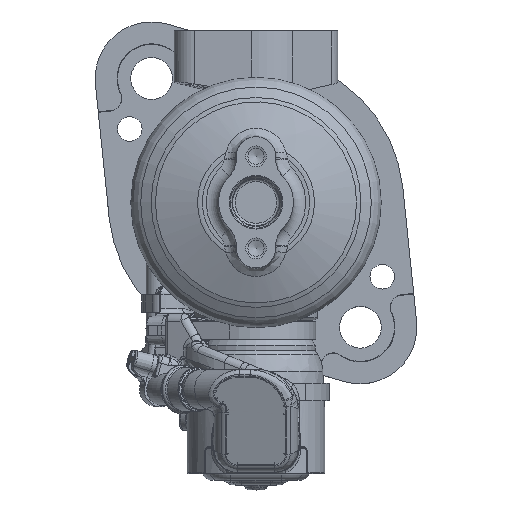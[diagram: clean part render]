
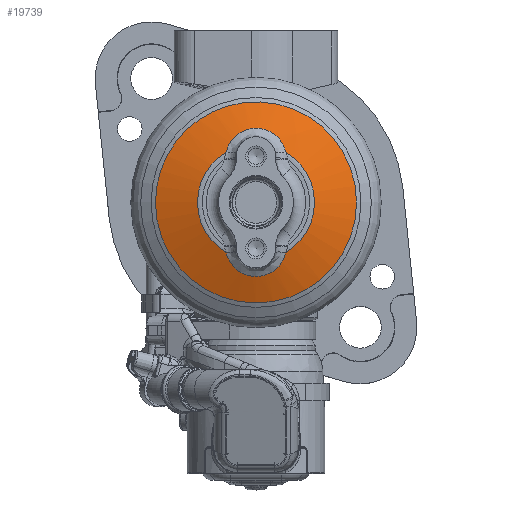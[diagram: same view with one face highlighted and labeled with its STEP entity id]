
A CAD part, top view. The second image highlights one B-rep face of the part: STEP entity #19739.
In plain terms, the highlighted spherical face has radius 48.7 mm.
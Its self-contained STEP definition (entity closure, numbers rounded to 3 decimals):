
#7176=SPHERICAL_SURFACE('',#77959,48.7);
#13625=CIRCLE('',#77949,20.439);
#13626=CIRCLE('',#77951,11.895);
#13628=CIRCLE('',#77954,11.895);
#19739=ADVANCED_FACE('',(#22661,#22662),#7176,.T.);
#22661=FACE_BOUND('',#26833,.T.);
#22662=FACE_BOUND('',#26834,.T.);
#26833=EDGE_LOOP('',(#45794,#45795,#45796,#45797));
#26834=EDGE_LOOP('',(#45798));
#45794=ORIENTED_EDGE('',*,*,#65544,.T.);
#45795=ORIENTED_EDGE('',*,*,#65514,.T.);
#45796=ORIENTED_EDGE('',*,*,#65546,.T.);
#45797=ORIENTED_EDGE('',*,*,#65482,.T.);
#45798=ORIENTED_EDGE('',*,*,#65543,.F.);
#55237=VERTEX_POINT('',#163507);
#55243=VERTEX_POINT('',#163552);
#55262=VERTEX_POINT('',#163744);
#55266=VERTEX_POINT('',#163798);
#55285=VERTEX_POINT('',#163986);
#65482=EDGE_CURVE('',#55243,#55237,#71920,.T.);
#65514=EDGE_CURVE('',#55262,#55266,#71934,.T.);
#65543=EDGE_CURVE('',#55285,#55285,#13625,.T.);
#65544=EDGE_CURVE('',#55237,#55262,#13626,.T.);
#65546=EDGE_CURVE('',#55266,#55243,#13628,.T.);
#71920=B_SPLINE_CURVE_WITH_KNOTS('',3,(#163576,#163577,#163578,#163579,
#163580,#163581,#163582,#163583,#163584,#163585,#163586,#163587,#163588,
#163589,#163590,#163591,#163592,#163593,#163594,#163595,#163596,#163597,
#163598,#163599,#163600),.UNSPECIFIED.,.F.,.F.,(4,2,2,2,2,2,2,2,1,2,2,2,
4),(0.,0.25,0.375,0.438,0.469,0.484,0.5,0.516,0.531,0.563,0.625,
0.75,1.),.UNSPECIFIED.);
#71934=B_SPLINE_CURVE_WITH_KNOTS('',3,(#163799,#163800,#163801,#163802,
#163803,#163804,#163805,#163806,#163807,#163808),.UNSPECIFIED.,.F.,.F.,
(4,2,2,2,4),(0.,0.25,0.5,0.75,1.),.UNSPECIFIED.);
#77949=AXIS2_PLACEMENT_3D('',#163985,#92173,#92174);
#77951=AXIS2_PLACEMENT_3D('',#163988,#92177,#92178);
#77954=AXIS2_PLACEMENT_3D('',#163991,#92183,#92184);
#77959=AXIS2_PLACEMENT_3D('',#163996,#92193,#92194);
#92173=DIRECTION('',(0.,0.,-1.));
#92174=DIRECTION('',(-1.,0.,0.));
#92177=DIRECTION('',(0.,0.,-1.));
#92178=DIRECTION('',(-1.,0.,0.));
#92183=DIRECTION('',(0.,0.,-1.));
#92184=DIRECTION('',(-1.,0.,0.));
#92193=DIRECTION('',(0.,0.,-1.));
#92194=DIRECTION('',(0.,1.,0.));
#163507=CARTESIAN_POINT('',(6.031,10.253,59.325));
#163552=CARTESIAN_POINT('',(-6.031,10.253,59.325));
#163576=CARTESIAN_POINT('',(-6.031,10.253,59.325));
#163577=CARTESIAN_POINT('',(-5.722,11.625,59.066));
#163578=CARTESIAN_POINT('',(-4.981,12.82,58.839));
#163579=CARTESIAN_POINT('',(-3.327,14.152,58.585));
#163580=CARTESIAN_POINT('',(-2.707,14.496,58.519));
#163581=CARTESIAN_POINT('',(-1.721,14.842,58.453));
#163582=CARTESIAN_POINT('',(-1.383,14.93,58.436));
#163583=CARTESIAN_POINT('',(-0.869,15.017,58.419));
#163584=CARTESIAN_POINT('',(-0.696,15.039,58.415));
#163585=CARTESIAN_POINT('',(-0.436,15.061,58.411));
#163586=CARTESIAN_POINT('',(-0.349,15.067,58.409));
#163587=CARTESIAN_POINT('',(-0.176,15.074,58.408));
#163588=CARTESIAN_POINT('',(-0.043,15.076,58.408));
#163589=CARTESIAN_POINT('',(0.04,15.076,58.408));
#163590=CARTESIAN_POINT('',(0.171,15.074,58.408));
#163591=CARTESIAN_POINT('',(0.345,15.067,58.409));
#163592=CARTESIAN_POINT('',(0.606,15.051,58.413));
#163593=CARTESIAN_POINT('',(0.865,15.018,58.419));
#163594=CARTESIAN_POINT('',(1.379,14.93,58.436));
#163595=CARTESIAN_POINT('',(1.717,14.843,58.452));
#163596=CARTESIAN_POINT('',(2.705,14.497,58.519));
#163597=CARTESIAN_POINT('',(3.326,14.153,58.585));
#163598=CARTESIAN_POINT('',(4.981,12.82,58.839));
#163599=CARTESIAN_POINT('',(5.722,11.626,59.066));
#163600=CARTESIAN_POINT('',(6.031,10.253,59.325));
#163744=CARTESIAN_POINT('',(6.031,-10.253,59.325));
#163798=CARTESIAN_POINT('',(-6.031,-10.253,59.325));
#163799=CARTESIAN_POINT('',(6.031,-10.253,59.325));
#163800=CARTESIAN_POINT('',(5.722,-11.625,59.066));
#163801=CARTESIAN_POINT('',(4.955,-12.841,58.835));
#163802=CARTESIAN_POINT('',(2.802,-14.576,58.504));
#163803=CARTESIAN_POINT('',(1.306,-15.076,58.408));
#163804=CARTESIAN_POINT('',(-1.302,-15.077,58.408));
#163805=CARTESIAN_POINT('',(-2.872,-14.519,58.515));
#163806=CARTESIAN_POINT('',(-4.884,-12.899,58.824));
#163807=CARTESIAN_POINT('',(-5.746,-11.52,59.086));
#163808=CARTESIAN_POINT('',(-6.031,-10.253,59.325));
#163985=CARTESIAN_POINT('',(0.,0.,
56.303));
#163986=CARTESIAN_POINT('',(-20.439,0.,56.303));
#163988=CARTESIAN_POINT('',(0.,0.,
59.325));
#163991=CARTESIAN_POINT('',(0.,0.,
59.325));
#163996=CARTESIAN_POINT('',(0.,0.,
12.1));
